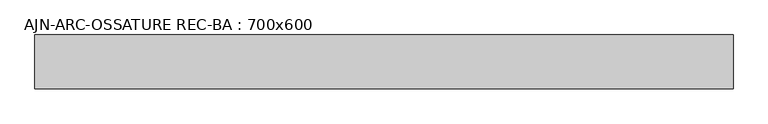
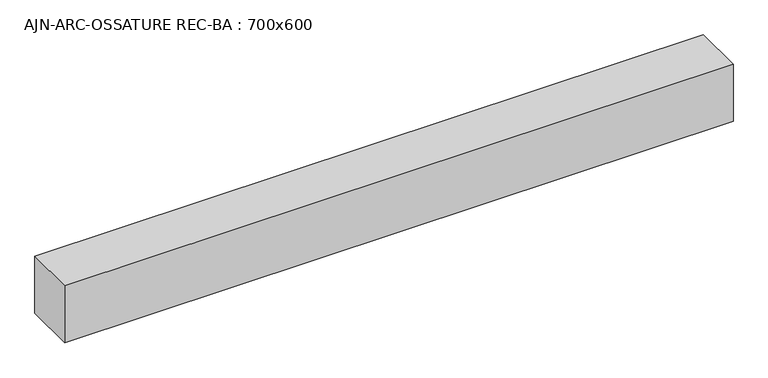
"""IFC4 building model written with IfcOpenShell, lengths in millimetres: beam geometry, AJN-ARC-OSSATURE REC-BA : 700x600."""

from ifc_helpers import new_model, si_unit, frame, origin, place, context, project, spatial, polyline, outline, extrude, source, transform, mapped, element, save


def ajn_arc_ossature_rec_ba_700x600_78f846f2(model_context):
    return source(origin(), model_context, "Body", "SweptSolid", [
        extrude(outline(polyline([(3900.0, 300.0), (3900.0, -300.0), (-3887.2999994, -300.0), (-3887.2999994, 300.0), (3900.0, 300.0)])), frame((0.0, 0.0, -350.0), z_axis=(0.0, 0.0, 1.0), x_axis=(1.0, 0.0, 0.0)), (0.0, 0.0, 1.0), 700.0),
    ])


if __name__ == "__main__":
    model = new_model("IFC4")
    model_context = context("Model", 3, world=origin())
    ifc_project = project(units=[si_unit("LENGTHUNIT", "METRE", prefix="MILLI")], contexts=[model_context])
    site = spatial("IfcSite", under=ifc_project)
    building = spatial("IfcBuilding", under=site)
    placement = place(None, origin())
    ajn_arc_ossature_rec_ba_700x600_shape = ajn_arc_ossature_rec_ba_700x600_78f846f2(model_context)
    element("IfcBeam", 1, ObjectType="AJN-ARC-OSSATURE REC-BA : 700x600", at=placement, inside=building, context=model_context, shape_type="MappedRepresentation", body=[
        mapped(ajn_arc_ossature_rec_ba_700x600_shape, transform((0.0, 0.0, 0.0), x_axis=(1.0, 0.0, 0.0), y_axis=(0.0, 1.0, 0.0), z_axis=(0.0, 0.0, 1.0))),
    ])
    save(model, "model.ifc")
